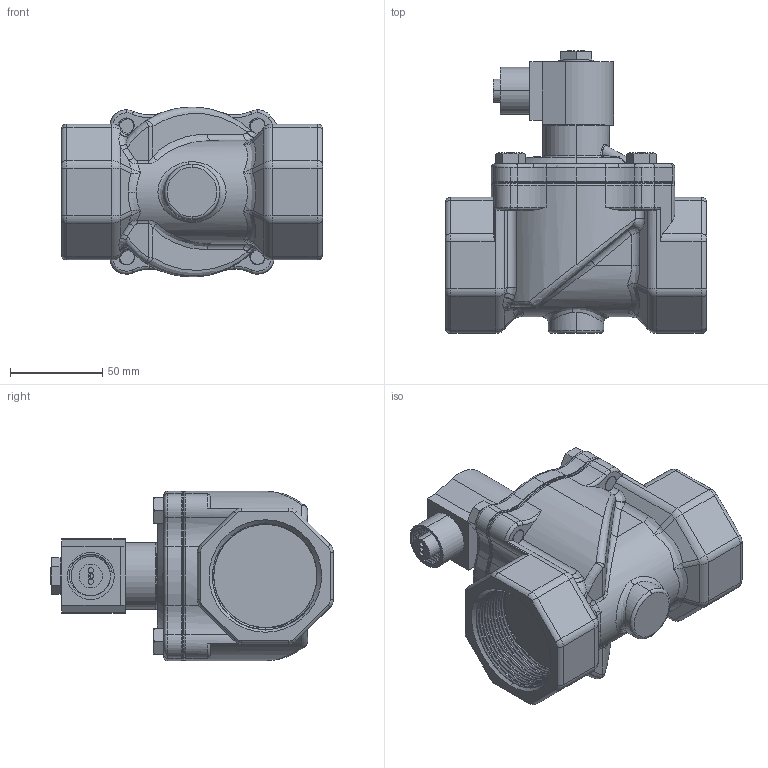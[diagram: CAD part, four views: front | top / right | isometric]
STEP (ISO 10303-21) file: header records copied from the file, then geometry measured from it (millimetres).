
FILE_DESCRIPTION (( 'STEP AP203' ), '1' );
FILE_NAME ('S211G_J.STEP', '2023-09-29T15:24:25', ( '' ), ( '' ), 'SwSTEP 2.0', 'SolidWorks 2023', '' );
FILE_SCHEMA (( 'CONFIG_CONTROL_DESIGN' ));
Products named in the file (1): S211G_J
Bounding box: 141.5 x 153.16 x 92 mm (x, y, z)
Volume: 755961 mm3; surface area: 85518.6 mm2
Topology: 1 solids, 1 shells, 925 faces, 2415 edges, 1515 vertices
Faces by surface type: cylinder 324, plane 243, bspline 199, torus 118, cone 25, sphere 16
Entity records: 60516 total; most frequent: CARTESIAN_POINT 39717, ORIENTED_EDGE 4798, DIRECTION 3794, EDGE_CURVE 2399, VERTEX_POINT 1515, AXIS2_PLACEMENT_3D 1460, EDGE_LOOP 966, ADVANCED_FACE 925
